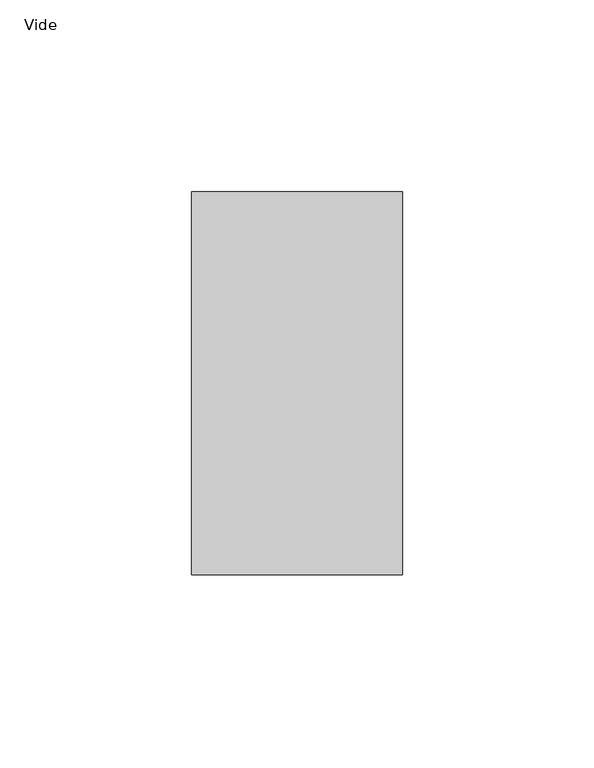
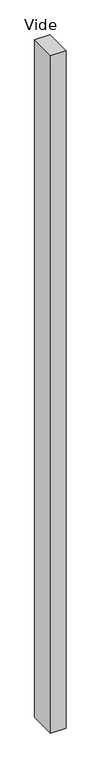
"""IFC4 building model written with IfcOpenShell, lengths in millimetres: plate geometry, Panneau système vide : Vide."""

import ifcopenshell
import ifcopenshell.guid

model = None  # the IFC model being written
_history = None  # IfcOwnerHistory: only IFC2X3 demands one
_inside = {}  # id of a spatial element -> (the spatial element, [elements in it])
_under = {}  # id of a project, library or spatial element -> (it, [spatial elements below it])
_declared = {}  # id of a project -> (the project, [libraries it declares])
_typed = {}  # id of a type object -> (the type object, [elements of that type])
_made_of = {}  # id of a material, layer set ... -> (it, [elements and type objects made of it])


def new_model(schema):
    """Start an empty IFC model of exactly this schema.

    Asked for "IFC4X3", IfcOpenShell would pick the latest addendum, in which some entities
    have other attributes; the version numbers below select the first issue.
    IFC2X3 requires an IfcOwnerHistory on every rooted entity: one is made here for all.
    """
    global model, _history
    if schema == "IFC4X3":
        model = ifcopenshell.file(schema_version=(4, 3, 0, 0))
    else:
        model = ifcopenshell.file(schema=schema)
    _inside.clear()
    _under.clear()
    _declared.clear()
    _typed.clear()
    _made_of.clear()
    _history = None
    if model.schema == "IFC2X3":
        org = make("IfcOrganization", Name="unknown")
        user = make(
            "IfcPersonAndOrganization",
            ThePerson=make("IfcPerson", FamilyName="unknown"),
            TheOrganization=org,
        )
        app = make(
            "IfcApplication",
            ApplicationDeveloper=org,
            Version="unknown",
            ApplicationFullName="unknown",
            ApplicationIdentifier="unknown",
        )
        _history = make(
            "IfcOwnerHistory",
            OwningUser=user,
            OwningApplication=app,
            ChangeAction="ADDED",
            CreationDate=0,
        )
    return model


def make(cls, **values):
    """One entity of the class cls with the attributes given. An attribute that is None is left unset."""
    return model.create_entity(
        cls, **{name: value for name, value in values.items() if value is not None}
    )


def rooted(cls, **values):
    """An entity with a GlobalId (a new one), such as an element, a storey or a relation."""
    return make(cls, GlobalId=ifcopenshell.guid.new(), OwnerHistory=_history, **values)


def si_unit(unit_type, name, prefix=None):
    """IfcSIUnit, for example si_unit("LENGTHUNIT", "METRE", prefix="MILLI")."""
    return make("IfcSIUnit", UnitType=unit_type, Prefix=prefix, Name=name)


def assignment(units):
    """IfcUnitAssignment: the units of a project."""
    return None if units is None else make("IfcUnitAssignment", Units=units)


def point(xyz):
    """IfcCartesianPoint."""
    return None if xyz is None else make("IfcCartesianPoint", Coordinates=xyz)


def direction(xyz):
    """IfcDirection."""
    return None if xyz is None else make("IfcDirection", DirectionRatios=xyz)


def frame(location, z_axis=None, x_axis=None):
    """IfcAxis2Placement3D, a coordinate frame: its origin and axes. An axis left out is left unset."""
    return make(
        "IfcAxis2Placement3D",
        Location=point(location),
        Axis=direction(z_axis),
        RefDirection=direction(x_axis),
    )


def origin():
    """The frame at (0, 0, 0) with its axes left unset."""
    return frame((0.0, 0.0, 0.0))


def origin_with_axes():
    """The frame at (0, 0, 0) with the z axis (0, 0, 1) and the x axis (1, 0, 0) written out."""
    return frame((0.0, 0.0, 0.0), z_axis=(0.0, 0.0, 1.0), x_axis=(1.0, 0.0, 0.0))


def place(relative_to, where):
    """IfcLocalPlacement: puts the frame where relative to a parent placement (None: the world)."""
    return make(
        "IfcLocalPlacement", PlacementRelTo=relative_to, RelativePlacement=where
    )


def context(
    kind, dimensions, precision=None, world=None, true_north=None, identifier=None
):
    """IfcGeometricRepresentationContext, for example the 3D "Model" context."""
    return make(
        "IfcGeometricRepresentationContext",
        ContextIdentifier=identifier,
        ContextType=kind,
        CoordinateSpaceDimension=dimensions,
        Precision=precision,
        WorldCoordinateSystem=world,
        TrueNorth=true_north,
    )


def project(units=None, contexts=None):
    """IfcProject with its units and contexts."""
    return rooted(
        "IfcProject",
        Name="project",
        RepresentationContexts=contexts,
        UnitsInContext=assignment(units),
    )


def spatial(cls, under=None, at=None, **own):
    """A site, building, storey or space (cls), placed at a placement, below another one or the project."""
    s = rooted(cls, ObjectPlacement=at, **own)
    if under is not None:
        _under.setdefault(under.id(), (under, []))[1].append(s)
    return s


def polyline(points):
    """IfcPolyline through the points."""
    return make("IfcPolyline", Points=[point(p) for p in points])


def outline(outer, holes=None, kind="AREA"):
    """IfcArbitraryClosedProfileDef: a profile drawn as a closed curve; with holes, ...WithVoids."""
    if holes is None:
        return make("IfcArbitraryClosedProfileDef", ProfileType=kind, OuterCurve=outer)
    return make(
        "IfcArbitraryProfileDefWithVoids",
        ProfileType=kind,
        OuterCurve=outer,
        InnerCurves=holes,
    )


def extrude(swept, where, along, depth):
    """IfcExtrudedAreaSolid: the profile swept, set in the frame where, extruded along a direction by depth."""
    return make(
        "IfcExtrudedAreaSolid",
        SweptArea=swept,
        Position=where,
        ExtrudedDirection=direction(along),
        Depth=depth,
    )


def shape(context_of_items, identifier, shape_type, items):
    """IfcShapeRepresentation: the items that make up one representation, for example the "Body"."""
    return make(
        "IfcShapeRepresentation",
        ContextOfItems=context_of_items,
        RepresentationIdentifier=identifier,
        RepresentationType=shape_type,
        Items=items,
    )


def source(mapping_origin, context_of_items, identifier, shape_type, items):
    """IfcRepresentationMap: a shape defined once, which mapped items show again and again."""
    return make(
        "IfcRepresentationMap",
        MappingOrigin=mapping_origin,
        MappedRepresentation=shape(context_of_items, identifier, shape_type, items),
    )


def transform(
    local_origin,
    x_axis=None,
    y_axis=None,
    z_axis=None,
    scale=None,
    scale2=None,
    scale3=None,
    uniform=True,
):
    """IfcCartesianTransformationOperator3D, or its non-uniform kind. x_axis, y_axis, z_axis: its Axis1, 2, 3."""
    if uniform:
        return make(
            "IfcCartesianTransformationOperator3D",
            Axis1=direction(x_axis),
            Axis2=direction(y_axis),
            LocalOrigin=point(local_origin),
            Scale=scale,
            Axis3=direction(z_axis),
        )
    return make(
        "IfcCartesianTransformationOperator3DnonUniform",
        Axis1=direction(x_axis),
        Axis2=direction(y_axis),
        LocalOrigin=point(local_origin),
        Scale=scale,
        Axis3=direction(z_axis),
        Scale2=scale2,
        Scale3=scale3,
    )


def mapped(mapping_source, mapping_target):
    """IfcMappedItem: shows the shape of a source again, moved by a transform."""
    return make(
        "IfcMappedItem", MappingSource=mapping_source, MappingTarget=mapping_target
    )


def made_of(thing, what):
    """Note that an element or type object is made of a material, layer set ...; save() writes the relation."""
    if what is not None:
        _made_of.setdefault(what.id(), (what, []))[1].append(thing)
    return thing


def element(
    cls,
    number,
    at=None,
    inside=None,
    cuts=None,
    type_object=None,
    material=None,
    context=None,
    identifier="Body",
    shape_type=None,
    held_by="IfcProductDefinitionShape",
    body=None,
    shapes=None,
    **own,
):
    """One element of the class cls, such as IfcWall. Its Tag is "e" and its number.

    at: its placement. inside: the storey or other place that contains it. cuts: it is an
    opening in that element (IfcRelVoidsElement). A single representation is given by context,
    identifier, shape_type and body (its items); several are given by shapes. held_by: the class
    of the entity that holds the representations. save() writes the other relations.
    """
    e = rooted(cls, Tag="e%d" % number, ObjectPlacement=at, **own)
    if body is not None:
        shapes = [shape(context, identifier, shape_type, body)]
    if shapes is not None:
        e.Representation = make(held_by, Representations=shapes)
    if inside is not None:
        _inside.setdefault(inside.id(), (inside, []))[1].append(e)
    if cuts is not None:
        rooted(
            "IfcRelVoidsElement", RelatingBuildingElement=cuts, RelatedOpeningElement=e
        )
    if type_object is not None:
        _typed.setdefault(type_object.id(), (type_object, []))[1].append(e)
    return made_of(e, material)


def aggregate(whole, parts):
    """IfcRelAggregates: a whole, such as a stair, and the parts it consists of."""
    return rooted("IfcRelAggregates", RelatingObject=whole, RelatedObjects=parts)


def save(model, path):
    """Write the relations noted so far, then the file.

    IfcRelAggregates (storeys below a building ...), IfcRelContainedInSpatialStructure (elements
    in a storey), IfcRelDefinesByType, IfcRelAssociatesMaterial and IfcRelDeclares: one each for
    every whole, place, type object, material and project.
    """
    for whole, parts in _under.values():
        aggregate(whole, parts)
    for where, things in _inside.values():
        rooted(
            "IfcRelContainedInSpatialStructure",
            RelatedElements=things,
            RelatingStructure=where,
        )
    for kind, things in _typed.values():
        rooted("IfcRelDefinesByType", RelatedObjects=things, RelatingType=kind)
    for what, things in _made_of.values():
        rooted("IfcRelAssociatesMaterial", RelatedObjects=things, RelatingMaterial=what)
    for by, libraries in _declared.values():
        rooted("IfcRelDeclares", RelatingContext=by, RelatedDefinitions=libraries)
    model.write(path)


def vide_fb23bf97(model_context):
    return source(origin(), model_context, "Body", "SweptSolid", [
        extrude(outline(polyline([(27.5710382, 50.0), (-27.5710382, 50.0), (-27.5710382, 150.0), (27.5710382, 150.0), (27.5710382, 50.0)])), origin_with_axes(), (0.0, 0.0, 1.0), 2588.190451),
    ])


if __name__ == "__main__":
    model = new_model("IFC4")
    model_context = context("Model", 3, world=origin())
    ifc_project = project(units=[si_unit("LENGTHUNIT", "METRE", prefix="MILLI")], contexts=[model_context])
    site = spatial("IfcSite", under=ifc_project)
    building = spatial("IfcBuilding", under=site)
    placement = place(None, origin())
    vide_shape = vide_fb23bf97(model_context)
    element("IfcPlate", 1, ObjectType="Panneau système vide : Vide", at=placement, inside=building, context=model_context, shape_type="MappedRepresentation", body=[
        mapped(vide_shape, transform((0.0, 0.0, 0.0), x_axis=(1.0, 0.0, 0.0), y_axis=(0.0, 1.0, 0.0), z_axis=(0.0, 0.0, 1.0))),
    ])
    save(model, "model.ifc")
